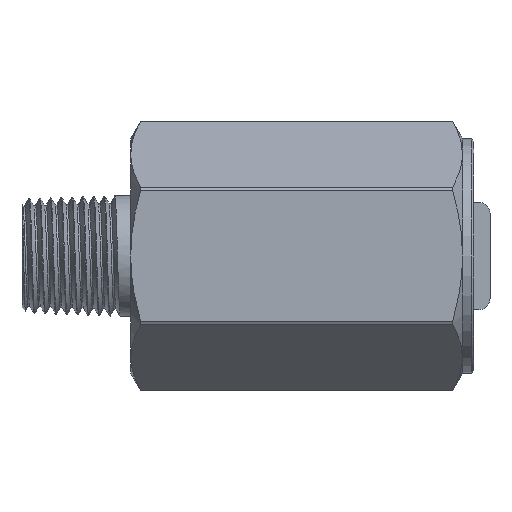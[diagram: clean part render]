
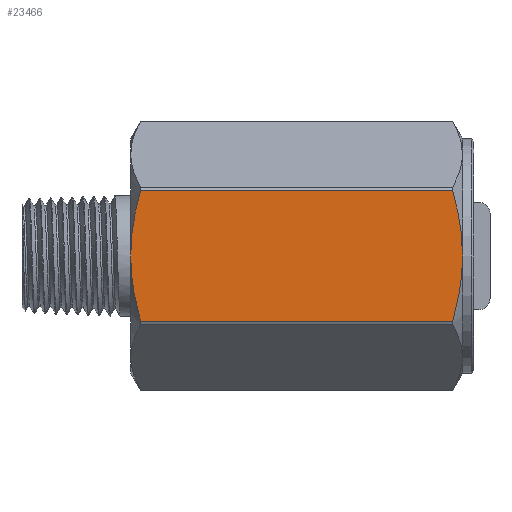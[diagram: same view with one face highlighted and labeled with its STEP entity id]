
A CAD part, front view. The second image highlights one B-rep face of the part: STEP entity #23466.
In plain terms, the highlighted planar face has unit normal (0, -1, 0).
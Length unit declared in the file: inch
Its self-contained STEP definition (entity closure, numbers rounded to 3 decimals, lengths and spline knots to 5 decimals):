
#407 = CARTESIAN_POINT ( 'NONE',  ( -0.35066, -0.40354, -0.10435 ) ) ;
#575 = CARTESIAN_POINT ( 'NONE',  ( -0.35513, -0.40355, -0.06655 ) ) ;
#1190 = CARTESIAN_POINT ( 'NONE',  ( -0.35827, -0.40354, 0. ) ) ;
#1192 = CARTESIAN_POINT ( 'NONE',  ( 0.74937, -0.40354, -0.22616 ) ) ;
#1672 = CARTESIAN_POINT ( 'NONE',  ( -0.35827, -0.40354, 0.00959 ) ) ;
#2280 = EDGE_CURVE ( 'NONE', #30803, #29657, #30606, .T. ) ;
#2953 = CARTESIAN_POINT ( 'NONE',  ( -0.3426, -0.40354, -0.15073 ) ) ;
#3117 = CARTESIAN_POINT ( 'NONE',  ( -0.34524, -0.40354, -0.13688 ) ) ;
#3138 = DIRECTION ( 'NONE',  ( 1., 0., 0. ) ) ;
#3320 = CARTESIAN_POINT ( 'NONE',  ( -0.39764, -0.40354, 0.22616 ) ) ;
#3369 = CARTESIAN_POINT ( 'NONE',  ( 0.78346, -0.40354, 0.01875 ) ) ;
#3735 = CARTESIAN_POINT ( 'NONE',  ( 0.77177, -0.40354, -0.12957 ) ) ;
#3961 = ORIENTED_EDGE ( 'NONE', *, *, #6632, .T. ) ;
#5567 = B_SPLINE_CURVE_WITH_KNOTS ( 'NONE', 3,
 ( #31227, #26141, #26303, #16176, #2953, #3117, #25810, #23599, #13467, #28346, #407, #23762, #10923, #23269, #575, #21231, #31559, #26466, #13630 ),
 .UNSPECIFIED., .F., .F.,
 ( 4, 2, 2, 1, 2, 2, 2, 2, 2, 4 ),
 ( 0., 0.25, 0.375, 0.4375, 0.46875, 0.5, 0.625, 0.6875, 0.75, 1. ),
 .UNSPECIFIED. ) ;
#5684 = LINE ( 'NONE', #10617, #28658 ) ;
#5979 = CARTESIAN_POINT ( 'NONE',  ( -0.32417, -0.40354, 0.22616 ) ) ;
#5989 = ORIENTED_EDGE ( 'NONE', *, *, #14508, .T. ) ;
#6290 = CARTESIAN_POINT ( 'NONE',  ( 0.77374, -0.40354, -0.11779 ) ) ;
#6424 = CARTESIAN_POINT ( 'NONE',  ( 0.78231, -0.40354, 0.04715 ) ) ;
#6456 = CARTESIAN_POINT ( 'NONE',  ( 0.77419, -0.40354, -0.11501 ) ) ;
#6632 = EDGE_CURVE ( 'NONE', #25189, #31367, #5684, .T. ) ;
#6929 = CARTESIAN_POINT ( 'NONE',  ( -0.35246, -0.40354, 0.09077 ) ) ;
#7047 = EDGE_CURVE ( 'NONE', #29657, #29703, #30157, .T. ) ;
#7279 = CARTESIAN_POINT ( 'NONE',  ( -0.35807, -0.40354, 0.01915 ) ) ;
#7441 = CARTESIAN_POINT ( 'NONE',  ( -0.35724, -0.40354, 0.03828 ) ) ;
#8188 = VERTEX_POINT ( 'NONE', #26384 ) ;
#8418 = DIRECTION ( 'NONE',  ( 0., 0., -1. ) ) ;
#8469 = CARTESIAN_POINT ( 'NONE',  ( 0.76037, -0.40354, 0.1872 ) ) ;
#8984 = CARTESIAN_POINT ( 'NONE',  ( 0.76865, -0.40354, 0.15006 ) ) ;
#10617 = CARTESIAN_POINT ( 'NONE',  ( -0.39764, -0.40354, -0.22616 ) ) ;
#10923 = CARTESIAN_POINT ( 'NONE',  ( -0.35367, -0.40354, -0.08071 ) ) ;
#11018 = CARTESIAN_POINT ( 'NONE',  ( 0.77489, -0.40354, 0.11047 ) ) ;
#12206 = CARTESIAN_POINT ( 'NONE',  ( -0.33499, -0.40354, 0.18784 ) ) ;
#13467 = CARTESIAN_POINT ( 'NONE',  ( -0.34844, -0.40354, -0.11848 ) ) ;
#13608 = EDGE_CURVE ( 'NONE', #25189, #30803, #5567, .T. ) ;
#13630 = CARTESIAN_POINT ( 'NONE',  ( -0.35827, -0.40354, 0. ) ) ;
#13669 = DIRECTION ( 'NONE',  ( 0., -1., 0. ) ) ;
#13921 = CARTESIAN_POINT ( 'NONE',  ( 0.77427, -0.40354, -0.1145 ) ) ;
#14089 = CARTESIAN_POINT ( 'NONE',  ( 0.78346, -0.40354, -0.03724 ) ) ;
#14508 = EDGE_CURVE ( 'NONE', #8188, #29703, #30675, .T. ) ;
#14939 = ORIENTED_EDGE ( 'NONE', *, *, #2280, .F. ) ;
#15561 = ORIENTED_EDGE ( 'NONE', *, *, #13608, .F. ) ;
#16176 = CARTESIAN_POINT ( 'NONE',  ( -0.34068, -0.40353, -0.15999 ) ) ;
#16263 = CARTESIAN_POINT ( 'NONE',  ( 0.74937, -0.40354, 0.22616 ) ) ;
#16459 = CARTESIAN_POINT ( 'NONE',  ( 0.76888, -0.40354, -0.14544 ) ) ;
#16822 = ORIENTED_EDGE ( 'NONE', *, *, #7047, .F. ) ;
#17435 = CARTESIAN_POINT ( 'NONE',  ( -0.35665, -0.40354, 0.04786 ) ) ;
#17604 = CARTESIAN_POINT ( 'NONE',  ( -0.34941, -0.40354, 0.1123 ) ) ;
#17931 = CARTESIAN_POINT ( 'NONE',  ( -0.35514, -0.40354, 0.06699 ) ) ;
#18491 = AXIS2_PLACEMENT_3D ( 'NONE', #3320, #13669, #8418 ) ;
#18788 = CARTESIAN_POINT ( 'NONE',  ( 0.77894, -0.40354, 0.08078 ) ) ;
#19315 = CARTESIAN_POINT ( 'NONE',  ( 0.75491, -0.40354, -0.20654 ) ) ;
#19338 = CARTESIAN_POINT ( 'NONE',  ( -0.39764, -0.40354, 0.22616 ) ) ;
#19503 = DIRECTION ( 'NONE',  ( 1., 0., 0. ) ) ;
#19882 = B_SPLINE_CURVE_WITH_KNOTS ( 'NONE', 3,
 ( #1192, #19315, #32179, #16459, #3735, #21850, #6290, #26753, #6456, #13921, #21679, #14089, #29632 ),
 .UNSPECIFIED., .F., .F.,
 ( 4, 1, 1, 1, 1, 1, 2, 2, 4 ),
 ( 0., 0.25, 0.375, 0.4375, 0.46875, 0.48438, 0.49219, 0.5, 1. ),
 .UNSPECIFIED. ) ;
#20027 = VECTOR ( 'NONE', #19503, 39.37008 ) ;
#20292 = CARTESIAN_POINT ( 'NONE',  ( -0.35153, -0.40354, 0.09793 ) ) ;
#20454 = CARTESIAN_POINT ( 'NONE',  ( -0.35827, -0.40354, 0. ) ) ;
#21231 = CARTESIAN_POINT ( 'NONE',  ( -0.35556, -0.40355, -0.0619 ) ) ;
#21270 = PLANE ( 'NONE',  #18491 ) ;
#21679 = CARTESIAN_POINT ( 'NONE',  ( 0.78043, -0.40354, -0.07521 ) ) ;
#21850 = CARTESIAN_POINT ( 'NONE',  ( 0.7731, -0.40354, -0.12171 ) ) ;
#22484 = CARTESIAN_POINT ( 'NONE',  ( -0.35748, -0.40354, 0.0335 ) ) ;
#22824 = CARTESIAN_POINT ( 'NONE',  ( -0.3563, -0.40354, 0.05272 ) ) ;
#23269 = CARTESIAN_POINT ( 'NONE',  ( -0.35419, -0.40354, -0.07599 ) ) ;
#23466 = ADVANCED_FACE ( 'NONE', ( #31596 ), #21270, .T. ) ;
#23599 = CARTESIAN_POINT ( 'NONE',  ( -0.34768, -0.40354, -0.12308 ) ) ;
#23762 = CARTESIAN_POINT ( 'NONE',  ( -0.35197, -0.40354, -0.09488 ) ) ;
#23833 = CARTESIAN_POINT ( 'NONE',  ( 0.74937, -0.40354, 0.22616 ) ) ;
#23958 = CARTESIAN_POINT ( 'NONE',  ( 0.74937, -0.40354, -0.22616 ) ) ;
#24022 = CARTESIAN_POINT ( 'NONE',  ( 0.77554, -0.40354, 0.10621 ) ) ;
#24533 = CARTESIAN_POINT ( 'NONE',  ( 0.78346, -0.40354, 0. ) ) ;
#25189 = VERTEX_POINT ( 'NONE', #28639 ) ;
#25810 = CARTESIAN_POINT ( 'NONE',  ( -0.34651, -0.40354, -0.12997 ) ) ;
#26141 = CARTESIAN_POINT ( 'NONE',  ( -0.32962, -0.40354, -0.20686 ) ) ;
#26303 = CARTESIAN_POINT ( 'NONE',  ( -0.33443, -0.40353, -0.18796 ) ) ;
#26384 = CARTESIAN_POINT ( 'NONE',  ( 0.78346, -0.40354, 0. ) ) ;
#26466 = CARTESIAN_POINT ( 'NONE',  ( -0.35827, -0.40354, -0.01905 ) ) ;
#26469 = EDGE_LOOP ( 'NONE', ( #15561, #3961, #26719, #5989, #16822, #14939 ) ) ;
#26719 = ORIENTED_EDGE ( 'NONE', *, *, #32577, .T. ) ;
#26753 = CARTESIAN_POINT ( 'NONE',  ( 0.77401, -0.40354, -0.11612 ) ) ;
#27557 = CARTESIAN_POINT ( 'NONE',  ( -0.34922, -0.40354, 0.11357 ) ) ;
#27732 = CARTESIAN_POINT ( 'NONE',  ( -0.32417, -0.40354, 0.22616 ) ) ;
#28062 = CARTESIAN_POINT ( 'NONE',  ( -0.35033, -0.40354, 0.10631 ) ) ;
#28346 = CARTESIAN_POINT ( 'NONE',  ( -0.34879, -0.40354, -0.11627 ) ) ;
#28639 = CARTESIAN_POINT ( 'NONE',  ( -0.32417, -0.40354, -0.22616 ) ) ;
#28658 = VECTOR ( 'NONE', #3138, 39.37008 ) ;
#29099 = CARTESIAN_POINT ( 'NONE',  ( 0.77432, -0.40354, 0.11418 ) ) ;
#29263 = CARTESIAN_POINT ( 'NONE',  ( 0.77442, -0.40354, 0.11352 ) ) ;
#29632 = CARTESIAN_POINT ( 'NONE',  ( 0.78346, -0.40354, 0. ) ) ;
#29657 = VERTEX_POINT ( 'NONE', #5979 ) ;
#29703 = VERTEX_POINT ( 'NONE', #23833 ) ;
#30157 = LINE ( 'NONE', #19338, #20027 ) ;
#30606 = B_SPLINE_CURVE_WITH_KNOTS ( 'NONE', 3,
 ( #20454, #1672, #7279, #22484, #7441, #17435, #22824, #17931, #33166, #6929, #20292, #28062, #30778, #17604, #27557, #30609, #12206, #27732 ),
 .UNSPECIFIED., .F., .F.,
 ( 4, 2, 2, 2, 2, 1, 1, 2, 2, 4 ),
 ( 0., 0.125, 0.1875, 0.25, 0.375, 0.4375, 0.46875, 0.48437, 0.5, 1. ),
 .UNSPECIFIED. ) ;
#30609 = CARTESIAN_POINT ( 'NONE',  ( -0.34328, -0.40354, 0.15119 ) ) ;
#30675 = B_SPLINE_CURVE_WITH_KNOTS ( 'NONE', 3,
 ( #24533, #3369, #6424, #18788, #32147, #24022, #11018, #31974, #29263, #29099, #8984, #8469, #16263 ),
 .UNSPECIFIED., .F., .F.,
 ( 4, 1, 1, 1, 1, 1, 2, 2, 4 ),
 ( 0., 0.25, 0.375, 0.4375, 0.46875, 0.48437, 0.49219, 0.5, 1. ),
 .UNSPECIFIED. ) ;
#30778 = CARTESIAN_POINT ( 'NONE',  ( -0.34978, -0.40354, 0.1099 ) ) ;
#30803 = VERTEX_POINT ( 'NONE', #1190 ) ;
#31227 = CARTESIAN_POINT ( 'NONE',  ( -0.32417, -0.40354, -0.22616 ) ) ;
#31367 = VERTEX_POINT ( 'NONE', #23958 ) ;
#31559 = CARTESIAN_POINT ( 'NONE',  ( -0.35749, -0.40355, -0.03796 ) ) ;
#31596 = FACE_OUTER_BOUND ( 'NONE', #26469, .T. ) ;
#31974 = CARTESIAN_POINT ( 'NONE',  ( 0.77461, -0.40354, 0.1123 ) ) ;
#32147 = CARTESIAN_POINT ( 'NONE',  ( 0.77676, -0.40354, 0.09771 ) ) ;
#32179 = CARTESIAN_POINT ( 'NONE',  ( 0.76219, -0.40354, -0.17778 ) ) ;
#32577 = EDGE_CURVE ( 'NONE', #31367, #8188, #19882, .T. ) ;
#33166 = CARTESIAN_POINT ( 'NONE',  ( -0.35418, -0.40354, 0.07649 ) ) ;
